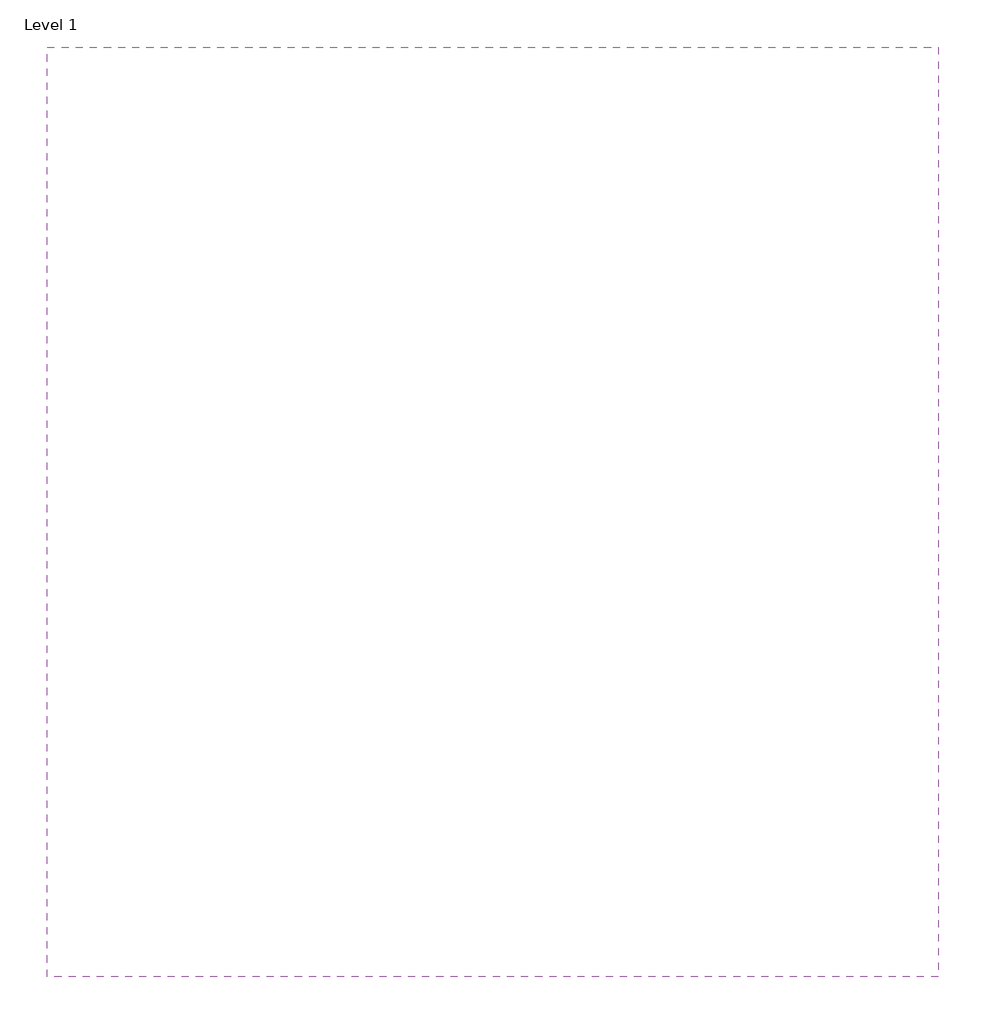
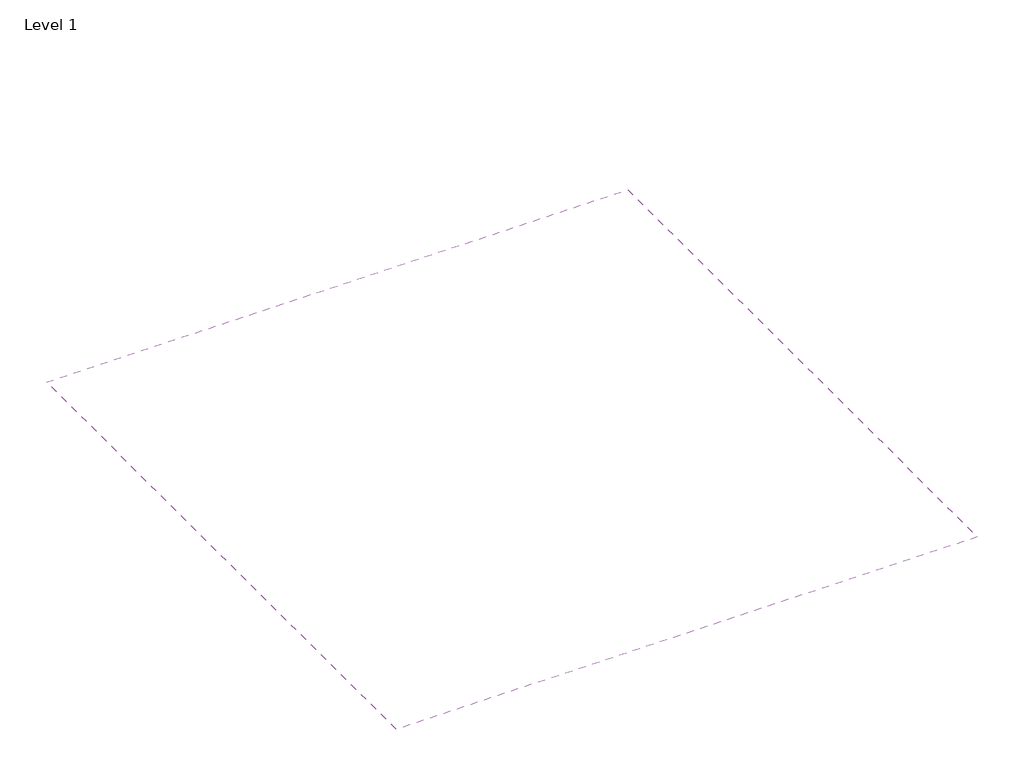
# One storey: 1 covering.
"""IFC4 building model written with IfcOpenShell, lengths in millimetres."""

from ifc_helpers import new_model, si_unit, frame, origin, place, context, project, spatial, polyline, outline, extrude, element, save

model = new_model("IFC4")

# Units and contexts
model_context = context("Model", 3, world=origin())
ifc_project = project(units=[si_unit("LENGTHUNIT", "METRE", prefix="MILLI")], contexts=[model_context])

# Site, building, storey
site = spatial("IfcSite", under=ifc_project)
building = spatial("IfcBuilding", under=site)
storey = spatial("IfcBuildingStorey", under=building, Name="Level 1", Elevation=0.0)

# Covering
placement = place(None, origin())
element("IfcCovering", 1, ObjectType="3 x Placo PPF 15", at=placement, inside=storey, context=model_context, shape_type="SweptSolid", body=[
    extrude(outline(polyline([(-5115.2715037, -25684.6742414), (-6055.2715037, -25684.6742414), (-6055.2715037, -24704.6742414), (-5115.2715037, -24704.6742414), (-5115.2715037, -25684.6742414)])), frame((0.0, 0.0, 2600.0), z_axis=(0.0, 0.0, 1.0), x_axis=(1.0, 0.0, 0.0)), (0.0, 0.0, 1.0), 245.0),
])

save(model, "model.ifc")
